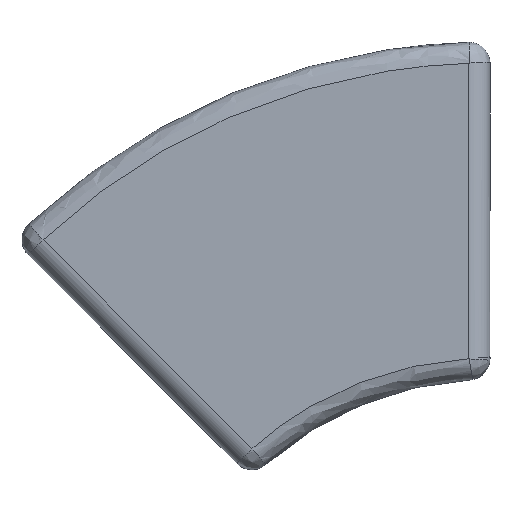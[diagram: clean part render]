
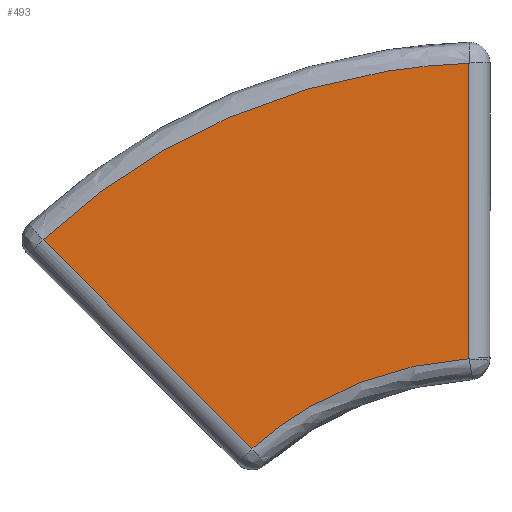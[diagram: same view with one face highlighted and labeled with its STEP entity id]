
A CAD part, top view. The second image highlights one B-rep face of the part: STEP entity #493.
In plain terms, the highlighted planar face has unit normal (0, 0, 1).
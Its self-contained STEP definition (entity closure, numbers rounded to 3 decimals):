
#165 = CARTESIAN_POINT ( 'NONE',  ( -39.117, 69.559, 4. ) ) ;
#188 = ORIENTED_EDGE ( 'NONE', *, *, #1201, .F. ) ;
#242 = CARTESIAN_POINT ( 'NONE',  ( -2.505, 42.426, 4. ) ) ;
#290 = CARTESIAN_POINT ( 'NONE',  ( -28.232, 31.768, 4. ) ) ;
#340 = CARTESIAN_POINT ( 'NONE',  ( -28.232, 31.768, 4. ) ) ;
#349 = LINE ( 'NONE', #340, #808 ) ;
#353 = DIRECTION ( 'NONE',  ( 0., -1., 0. ) ) ;
#438 = CARTESIAN_POINT ( 'NONE',  ( -53.004, 56.54, 4. ) ) ;
#472 = CARTESIAN_POINT ( 'NONE',  ( -2.505, 42.426, 4. ) ) ;
#484 = CARTESIAN_POINT ( 'NONE',  ( -12.125, 41.858, 4. ) ) ;
#493 = ADVANCED_FACE ( 'NONE', ( #1678 ), #979, .T. ) ;
#502 = CARTESIAN_POINT ( 'NONE',  ( -21.531, 76.844, 4. ) ) ;
#666 = EDGE_CURVE ( 'NONE', #1550, #791, #349, .T. ) ;
#668 = AXIS2_PLACEMENT_3D ( 'NONE', #2175, #1509, #1472 ) ;
#791 = VERTEX_POINT ( 'NONE', #438 ) ;
#808 = VECTOR ( 'NONE', #1369, 1000. ) ;
#854 = EDGE_CURVE ( 'NONE', #1507, #1550, #1065, .T. ) ;
#863 = CARTESIAN_POINT ( 'NONE',  ( -2.505, 240., 4. ) ) ;
#979 = PLANE ( 'NONE',  #668 ) ;
#997 =( BOUNDED_CURVE ( )  B_SPLINE_CURVE ( 3, ( #1351, #165, #502, #1874 ),
 .UNSPECIFIED., .F., .T. ) 
 B_SPLINE_CURVE_WITH_KNOTS ( ( 4, 4 ),
 ( 0., 1. ),
 .UNSPECIFIED. ) 
 CURVE ( )  GEOMETRIC_REPRESENTATION_ITEM ( )  RATIONAL_B_SPLINE_CURVE ( ( 1., 0.957, 0.957, 1. ) ) 
 REPRESENTATION_ITEM ( '' )  );
#1065 =( BOUNDED_CURVE ( )  B_SPLINE_CURVE ( 3, ( #472, #484, #1167, #1467 ),
 .UNSPECIFIED., .F., .T. ) 
 B_SPLINE_CURVE_WITH_KNOTS ( ( 4, 4 ),
 ( 0., 1. ),
 .UNSPECIFIED. ) 
 CURVE ( )  GEOMETRIC_REPRESENTATION_ITEM ( )  RATIONAL_B_SPLINE_CURVE ( ( 1., 0.963, 0.963, 1. ) ) 
 REPRESENTATION_ITEM ( '' )  );
#1167 = CARTESIAN_POINT ( 'NONE',  ( -21.029, 38.17, 4. ) ) ;
#1201 = EDGE_CURVE ( 'NONE', #1363, #1507, #1694, .T. ) ;
#1312 = EDGE_LOOP ( 'NONE', ( #188, #2011, #1391, #1567 ) ) ;
#1351 = CARTESIAN_POINT ( 'NONE',  ( -53.004, 56.54, 4. ) ) ;
#1363 = VERTEX_POINT ( 'NONE', #2132 ) ;
#1369 = DIRECTION ( 'NONE',  ( -0.707, 0.707, 0. ) ) ;
#1391 = ORIENTED_EDGE ( 'NONE', *, *, #666, .F. ) ;
#1467 = CARTESIAN_POINT ( 'NONE',  ( -28.232, 31.768, 4. ) ) ;
#1472 = DIRECTION ( 'NONE',  ( 1., 0., 0. ) ) ;
#1507 = VERTEX_POINT ( 'NONE', #242 ) ;
#1509 = DIRECTION ( 'NONE',  ( 0., 0., 1. ) ) ;
#1550 = VERTEX_POINT ( 'NONE', #290 ) ;
#1567 = ORIENTED_EDGE ( 'NONE', *, *, #854, .F. ) ;
#1612 = EDGE_CURVE ( 'NONE', #791, #1363, #997, .T. ) ;
#1628 = VECTOR ( 'NONE', #353, 1000. ) ;
#1678 = FACE_OUTER_BOUND ( 'NONE', #1312, .T. ) ;
#1694 = LINE ( 'NONE', #863, #1628 ) ;
#1874 = CARTESIAN_POINT ( 'NONE',  ( -2.505, 77.46, 4. ) ) ;
#2011 = ORIENTED_EDGE ( 'NONE', *, *, #1612, .F. ) ;
#2132 = CARTESIAN_POINT ( 'NONE',  ( -2.505, 77.46, 4. ) ) ;
#2175 = CARTESIAN_POINT ( 'NONE',  ( -27.4, 27.4, 4. ) ) ;
